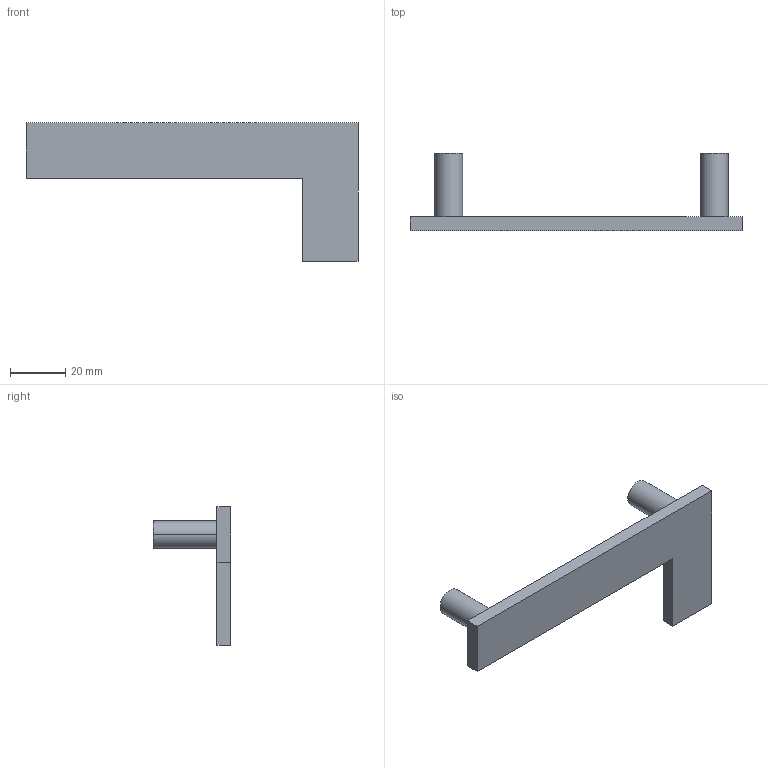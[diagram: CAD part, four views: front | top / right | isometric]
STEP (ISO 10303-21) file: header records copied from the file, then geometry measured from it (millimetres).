
FILE_DESCRIPTION( ( '' ), '1' );
FILE_NAME( 'C:/Documents and Settings/Nikhil/Desktop/Nik/Done/9145271.stp', '2013-10-23T08:55:05', ( '' ), ( '' ), ' ', ' ', ' ' );
FILE_SCHEMA( ( 'automotive_design' ) );
Length unit declared in the file: millimetre
Products named in the file (1): 1
Bounding box: 120 x 28 x 50 mm (x, y, z)
Volume: 18361.5 mm3; surface area: 9396.5 mm2
Topology: 1 solids, 1 shells, 20 faces, 42 edges, 28 vertices
Faces by surface type: plane 12, cylinder 8
Entity records: 1076 total; most frequent: DIRECTION 100, STYLED_ITEM 91, PRESENTATION_STYLE_ASSIGNMENT 91, CARTESIAN_POINT 91, COLOUR_RGB 91, ORIENTED_EDGE 84, EDGE_CURVE 42, CURVE_STYLE 42
